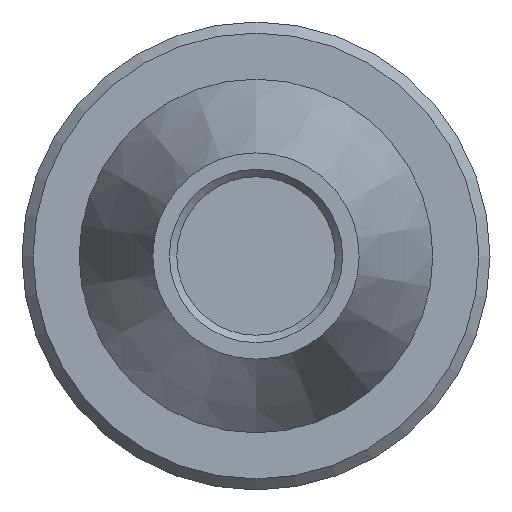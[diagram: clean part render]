
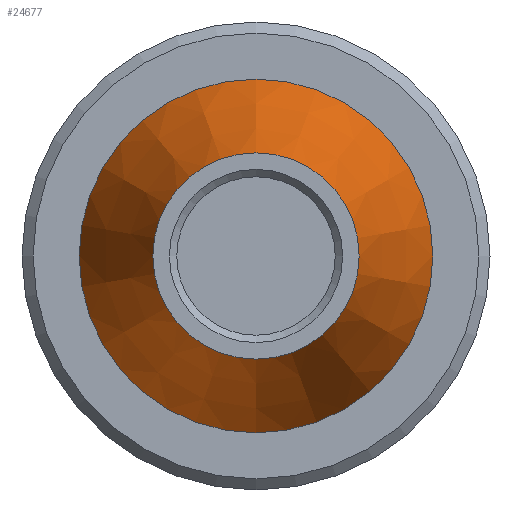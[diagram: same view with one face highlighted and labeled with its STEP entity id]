
A CAD part, left-side view. The second image highlights one B-rep face of the part: STEP entity #24677.
In plain terms, the highlighted conical face has half-angle 21.801 degrees and reference radius 0 mm.
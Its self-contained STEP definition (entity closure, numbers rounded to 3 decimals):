
#24588=CARTESIAN_POINT('',(-71.3,-25.,4.8));
#24589=VERTEX_POINT('',#24588);
#24590=CARTESIAN_POINT('',(-71.3,-25.,0.));
#24591=DIRECTION('',(0.,0.,1.));
#24592=DIRECTION('',(1.,0.,0.));
#24593=AXIS2_PLACEMENT_3D('',#24590,#24592,#24591);
#24594=CIRCLE('',#24593,4.8);
#24595=EDGE_CURVE('',#24589,#24589,#24594,.T.);
#24635=CARTESIAN_POINT('',(-83.3,-25.,0.));
#24636=DIRECTION('',(0.,0.,1.));
#24637=DIRECTION('',(1.,0.,0.));
#24638=AXIS2_PLACEMENT_3D('',#24635,#24637,#24636);
#24639=CONICAL_SURFACE('',#24638,0.,0.381);
#24640=CARTESIAN_POINT('',(-76.3,-25.,-2.8));
#24641=VERTEX_POINT('',#24640);
#24642=CARTESIAN_POINT('',(-76.3,-22.2,0.));
#24643=VERTEX_POINT('',#24642);
#24644=CARTESIAN_POINT('',(-76.3,-25.,0.));
#24645=DIRECTION('',(0.,0.,-1.));
#24646=DIRECTION('',(1.,0.,0.));
#24647=AXIS2_PLACEMENT_3D('',#24644,#24646,#24645);
#24648=CIRCLE('',#24647,2.8);
#24649=EDGE_CURVE('',#24641,#24643,#24648,.T.);
#24650=ORIENTED_EDGE('E83',*,*,#24649,.T.);
#24651=CARTESIAN_POINT('',(-76.3,-25.,2.8));
#24652=VERTEX_POINT('',#24651);
#24653=CARTESIAN_POINT('',(-76.3,-25.,0.));
#24654=DIRECTION('',(0.,1.,0.));
#24655=DIRECTION('',(1.,0.,0.));
#24656=AXIS2_PLACEMENT_3D('',#24653,#24655,#24654);
#24657=CIRCLE('',#24656,2.8);
#24658=EDGE_CURVE('',#24643,#24652,#24657,.T.);
#24659=ORIENTED_EDGE('E84',*,*,#24658,.T.);
#24660=CARTESIAN_POINT('',(-76.3,-25.,2.8));
#24661=DIRECTION('',(0.928,0.,0.371));
#24662=VECTOR('',#24661,5.385);
#24663=LINE('',#24660,#24662);
#24664=EDGE_CURVE('',#24652,#24589,#24663,.T.);
#24665=ORIENTED_EDGE('E85',*,*,#24664,.T.);
#24666=ORIENTED_EDGE('E85',*,*,#24595,.F.);
#24667=ORIENTED_EDGE('E85',*,*,#24664,.F.);
#24668=CARTESIAN_POINT('',(-76.3,-25.,0.));
#24669=DIRECTION('',(0.,0.,1.));
#24670=DIRECTION('',(1.,0.,0.));
#24671=AXIS2_PLACEMENT_3D('',#24668,#24670,#24669);
#24672=CIRCLE('',#24671,2.8);
#24673=EDGE_CURVE('',#24652,#24641,#24672,.T.);
#24674=ORIENTED_EDGE('E86',*,*,#24673,.T.);
#24675=EDGE_LOOP('',(#24650,#24659,#24665,#24666,#24667,#24674));
#24676=FACE_OUTER_BOUND('',#24675,.T.);
#24677=ADVANCED_FACE('F35',(#24676),#24639,.T.);
